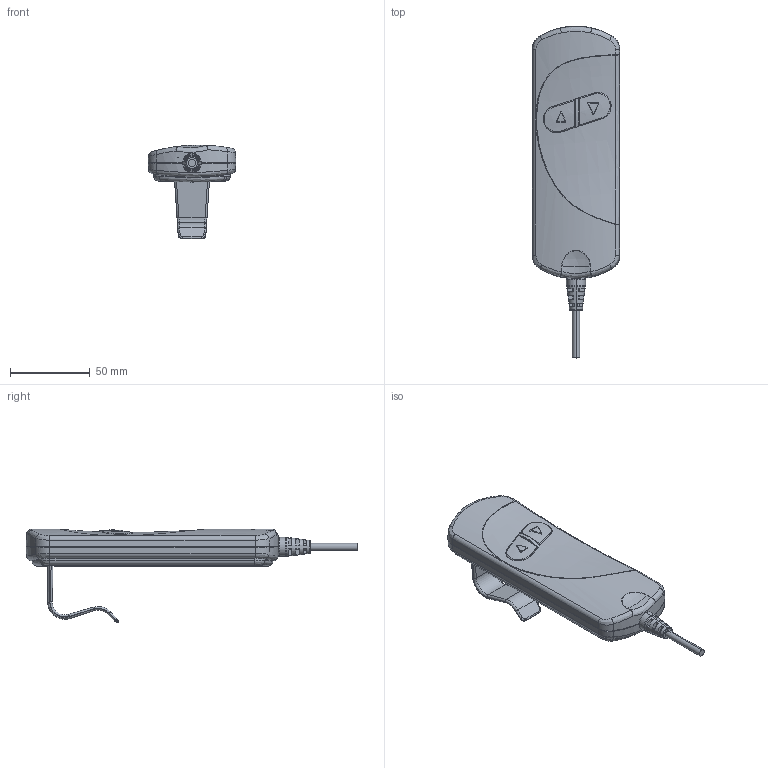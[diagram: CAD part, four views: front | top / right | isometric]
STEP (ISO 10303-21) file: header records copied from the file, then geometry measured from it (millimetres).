
FILE_DESCRIPTION((''),'2;1');
FILE_NAME('HB-WEIJUHE','2020-04-15T',('USER'),(''),'PRO/ENGINEER BY PARAMETRIC TECHNOLOGY CORPORATION, 2016240','PRO/ENGINEER BY PARAMETRIC TECHNOLOGY CORPORATION, 2016240','');
FILE_SCHEMA(('CONFIG_CONTROL_DESIGN'));
Products named in the file (1): HB-WEIJUHE
Bounding box: 55.1 x 208.63 x 58.96 mm (x, y, z)
Volume: 54642.9 mm3; surface area: 58741.4 mm2
Topology: 1 solids, 4 shells, 1007 faces, 2831 edges, 1836 vertices
Faces by surface type: plane 526, cylinder 230, bspline 173, cone 36, torus 19, sphere 15, extrusion 8
Entity records: 49954 total; most frequent: CARTESIAN_POINT 25525, ORIENTED_EDGE 5654, DIRECTION 4252, EDGE_CURVE 2827, VERTEX_POINT 1836, VECTOR 1460, LINE 1452, AXIS2_PLACEMENT_3D 1396
